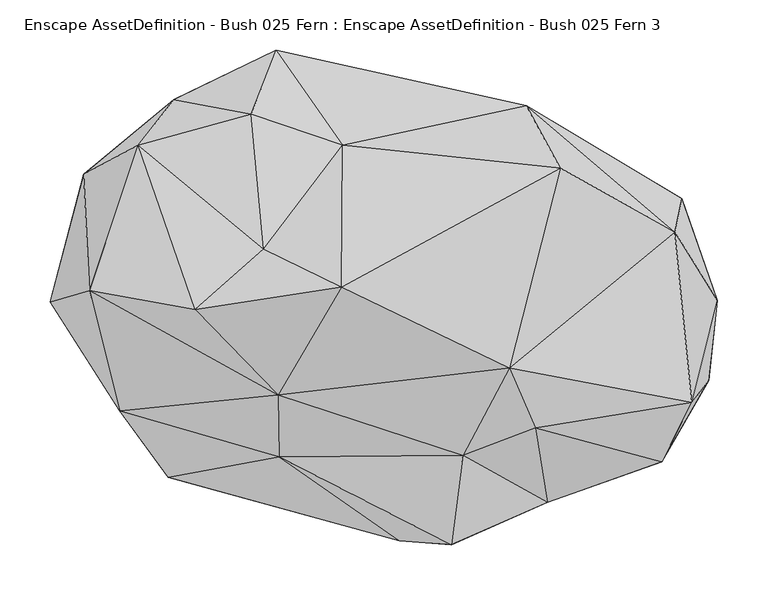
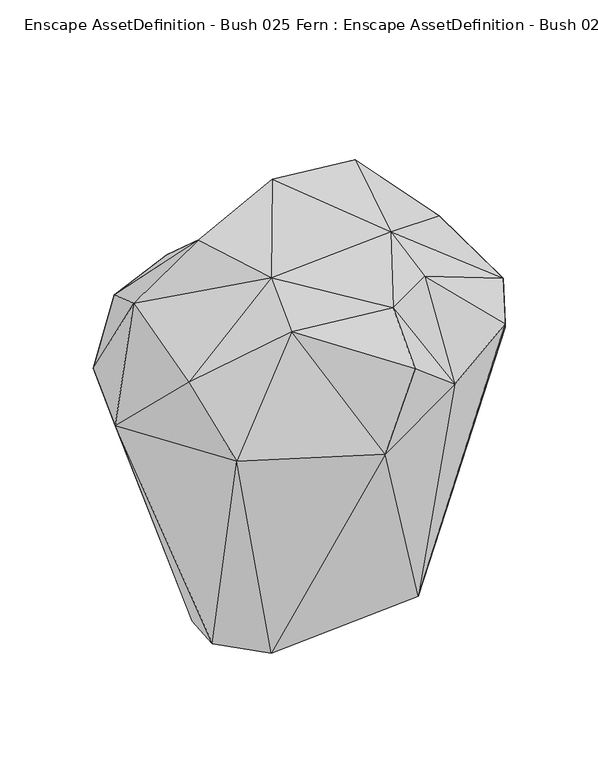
"""IFC4 building model written with IfcOpenShell, lengths in millimetres: geographic element geometry, Enscape AssetDefinition - Bush 025 Fern : Enscape AssetDefinition - Bush 025 Fern 3."""

from ifc_helpers import new_model, si_unit, origin, place, context, project, spatial, triangles, source, transform, mapped, element, save


def enscape_assetdefinition_bush_025_fern_enscape_5cccd865(model_context):
    return source(origin(), model_context, "Body", "Tessellation", [
        triangles([(77.9274563, 92.9060297, 0.0), (119.0139383, 206.906593, 535.0569119), (274.5686149, 113.7224553, 393.7670986), (179.9249914, 7.8387703, 0.0), (125.6812003, 64.8907339, 0.0), (310.2799344, 11.6387881, 429.377534), (301.3656348, -68.1271552, 444.61454), (284.6642378, -90.3218215, 558.140096), (254.5028339, -149.4559391, 517.7132031), (134.4601248, -85.345372, 0.0), (128.2555617, -115.80951, 632.1444088), (140.1330798, -190.2273786, 466.1791394), (55.7820148, -143.2119798, 613.6464827), (44.0472433, -232.4213511, 555.0292394), (152.9015319, 144.4450168, 688.2784098), (101.8818626, -55.5629693, 689.5631424), (267.6207469, 80.5485899, 579.5152084), (-65.8185933, 25.4409299, 800.0000061), (-288.02864, -98.7340442, 564.7753741), (-129.4246037, -82.6553291, 699.3831099), (-128.5213703, -144.7132871, 632.9812763), (-7.9421382, -228.8207169, 408.2337665), (-239.4528804, -165.1039302, 437.477185), (-323.7940804, 138.1666301, 460.4052549), (-318.0916306, 22.0026995, 652.9437206), (-212.6115682, 2.9287712, 748.5717499), (-269.2254272, 167.2746735, 563.8794986), (-357.6669402, 10.5115813, 439.9555584), (-206.7195587, 32.1106536, 0.0), (-209.4711349, -35.9106737, 0.0), (-143.0544676, -105.4308375, 0.0), (-234.0974297, 212.6263202, 455.5297168), (-131.3172389, 262.5040352, 429.5522326), (-34.4536701, 110.9733589, 0.0), (-135.397822, 102.0369131, 0.0), (-156.6523386, 198.2630436, 582.1018601), (-143.8420285, 63.3328257, 704.8764519), (-65.168851, 167.2869729, 615.5932388)], [[1, 34, 33], [18, 15, 38], [18, 38, 37], [36, 37, 38], [38, 33, 36], [32, 36, 33], [33, 34, 35], [35, 32, 33], [23, 31, 22], [23, 30, 31], [30, 23, 28], [28, 29, 30], [32, 35, 24], [29, 28, 24], [24, 35, 29], [32, 27, 36], [27, 37, 36], [27, 32, 24], [18, 37, 26], [27, 26, 37], [26, 27, 25], [25, 24, 28], [27, 24, 25], [23, 19, 28], [25, 28, 19], [22, 14, 21], [23, 21, 19], [21, 23, 22], [20, 26, 25], [20, 25, 19], [18, 26, 20], [20, 19, 21], [18, 16, 15], [15, 16, 17], [18, 20, 16], [16, 20, 13], [13, 21, 14], [13, 20, 21], [12, 14, 22], [13, 14, 12], [13, 12, 11], [16, 13, 11], [16, 8, 17], [8, 16, 11], [9, 8, 11], [11, 12, 9], [10, 12, 22], [12, 10, 9], [22, 31, 10], [7, 8, 9], [10, 7, 9], [8, 6, 17], [7, 6, 8], [7, 10, 4], [7, 4, 6], [4, 3, 6], [3, 17, 6], [3, 4, 5], [38, 2, 33], [2, 38, 15], [1, 2, 5], [3, 2, 17], [1, 33, 2], [5, 2, 3], [2, 15, 17]], closed=False),
    ])


if __name__ == "__main__":
    model = new_model("IFC4")
    model_context = context("Model", 3, world=origin())
    ifc_project = project(units=[si_unit("LENGTHUNIT", "METRE", prefix="MILLI")], contexts=[model_context])
    site = spatial("IfcSite", under=ifc_project)
    building = spatial("IfcBuilding", under=site)
    placement = place(None, origin())
    enscape_assetdefinition_bush_025_fern_enscape_shape = enscape_assetdefinition_bush_025_fern_enscape_5cccd865(model_context)
    element("IfcGeographicElement", 1, ObjectType="Enscape AssetDefinition - Bush 025 Fern : Enscape AssetDefinition - Bush 025 Fern 3", at=placement, inside=building, context=model_context, shape_type="MappedRepresentation", body=[
        mapped(enscape_assetdefinition_bush_025_fern_enscape_shape, transform((0.0, 0.0, 0.0), x_axis=(1.0, 0.0, 0.0), y_axis=(0.0, 1.0, 0.0), z_axis=(0.0, 0.0, 1.0))),
    ])
    save(model, "model.ifc")
